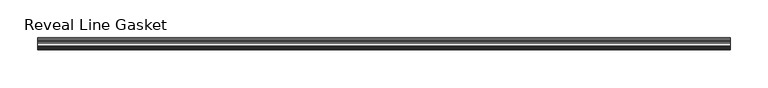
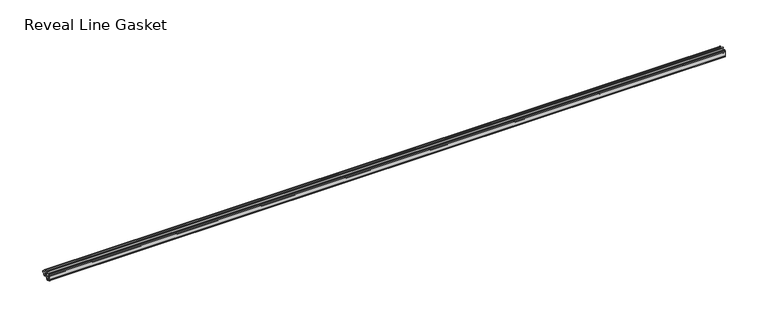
"""IFC4 building model written with IfcOpenShell, lengths in millimetres: proxy geometry, Accessories-Teknion-FHGR-AI_Healthcare-Reveal_Line_Gasket(Horizontal)-R2022 : Reveal Line Gasket."""

from ifc_helpers import new_model, si_unit, point, frame, frame_2d, origin, place, context, project, spatial, polyline, circle_curve, trimmed, segment, composite_curve, outline, extrude, source, transform, mapped, element, save


def reveal_line_gasket_6a08a78c(model_context):
    return source(origin(), model_context, "Body", "SweptSolid", [
        extrude(outline(composite_curve([segment(polyline([(-7.6326998, 1603.2), (-7.4091917, 1604.1554927), (-6.8813059, 1605.0884684)]), True, "CONTINUOUS"), segment(trimmed(circle_curve(frame_2d((-6.5243141, 1604.8864793)), 0.4101739), [point((-6.8813059, 1605.0884684))], [point((-6.1246704, 1604.7941347))], False, "CARTESIAN"), True, "CONTINUOUS"), segment(polyline([(-6.1246704, 1604.7941347), (-6.3626997, 1603.0979086), (-6.3626997, 1601.0654527)]), True, "CONTINUOUS"), segment(trimmed(circle_curve(frame_2d((-5.6959605, 1601.4819258)), 0.786124), [point((-6.3626997, 1601.0654527))], [point((-5.0926996, 1600.977875))], True, "CARTESIAN"), True, "CONTINUOUS"), segment(polyline([(-5.0926996, 1600.977875), (-0.7492996, 1600.977875), (-3.7293824, 1606.1395295)]), True, "CONTINUOUS"), segment(trimmed(circle_curve(frame_2d((-3.3132479, 1606.2049761)), 0.4212495), [point((-3.7293824, 1606.1395295))], [point((-3.0485022, 1606.5326358))], False, "CARTESIAN"), True, "CONTINUOUS"), segment(polyline([(-3.0485022, 1606.5326358), (0.5742594, 1600.977875), (4.8262978, 1600.977875), (3.1660374, 1603.8535297)]), True, "CONTINUOUS"), segment(trimmed(circle_curve(frame_2d((3.5978728, 1603.9118855)), 0.4357605), [point((3.1660374, 1603.8535297))], [point((3.864328, 1604.2566881))], False, "CARTESIAN"), True, "CONTINUOUS"), segment(polyline([(3.864328, 1604.2566881), (6.1944059, 1600.977875), (7.6326998, 1600.977875), (7.6326998, 1599.422125), (6.1944059, 1599.422125), (3.864328, 1596.1433119)]), True, "CONTINUOUS"), segment(trimmed(circle_curve(frame_2d((3.5978728, 1596.4881145)), 0.4357605), [point((3.864328, 1596.1433119))], [point((3.1660374, 1596.5464703))], False, "CARTESIAN"), True, "CONTINUOUS"), segment(polyline([(3.1660374, 1596.5464703), (4.8262978, 1599.422125), (0.5742594, 1599.422125), (-3.0485022, 1593.8673642)]), True, "CONTINUOUS"), segment(trimmed(circle_curve(frame_2d((-3.3132479, 1594.1950239)), 0.4212495), [point((-3.0485022, 1593.8673642))], [point((-3.7293824, 1594.2604705))], False, "CARTESIAN"), True, "CONTINUOUS"), segment(polyline([(-3.7293824, 1594.2604705), (-0.7492996, 1599.422125), (-5.0926996, 1599.422125)]), True, "CONTINUOUS"), segment(trimmed(circle_curve(frame_2d((-5.6959605, 1598.9180742)), 0.786124), [point((-5.0926996, 1599.422125))], [point((-6.3626997, 1599.3345473))], True, "CARTESIAN"), True, "CONTINUOUS"), segment(polyline([(-6.3626997, 1599.3345473), (-6.3626997, 1597.3020914), (-6.1246704, 1595.6058653)]), True, "CONTINUOUS"), segment(trimmed(circle_curve(frame_2d((-6.5243141, 1595.5135207)), 0.4101739), [point((-6.1246704, 1595.6058653))], [point((-6.8813059, 1595.3115316))], False, "CARTESIAN"), True, "CONTINUOUS"), segment(polyline([(-6.8813059, 1595.3115316), (-7.4091917, 1596.2445073), (-7.6326998, 1597.2), (-7.6326998, 1603.2)]), True, "CONTINUOUS")], self_intersect=False)), frame((-455.4056163, 0.0, 0.0), z_axis=(1.0, 0.0, 0.0), x_axis=(0.0, 1.0, 0.0)), (0.0, 0.0, 1.0), 910.8112326),
    ])


if __name__ == "__main__":
    model = new_model("IFC4")
    model_context = context("Model", 3, world=origin())
    ifc_project = project(units=[si_unit("LENGTHUNIT", "METRE", prefix="MILLI")], contexts=[model_context])
    site = spatial("IfcSite", under=ifc_project)
    building = spatial("IfcBuilding", under=site)
    placement = place(None, origin())
    reveal_line_gasket_shape = reveal_line_gasket_6a08a78c(model_context)
    element("IfcBuildingElementProxy", 1, Name="Accessories-Teknion-FHGR-AI_Healthcare-Reveal_Line_Gasket(Horizontal)-R2022 : Reveal Line Gasket", ObjectType="Accessories-Teknion-FHGR-AI_Healthcare-Reveal_Line_Gasket(Horizontal)-R2022 : Reveal Line Gasket", at=placement, inside=building, context=model_context, shape_type="MappedRepresentation", body=[
        mapped(reveal_line_gasket_shape, transform((0.0, 0.0, 0.0), x_axis=(1.0, 0.0, 0.0), y_axis=(0.0, 1.0, 0.0), z_axis=(0.0, 0.0, 1.0))),
    ])
    save(model, "model.ifc")
